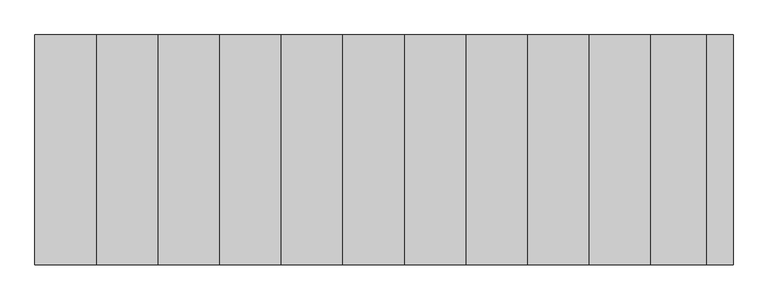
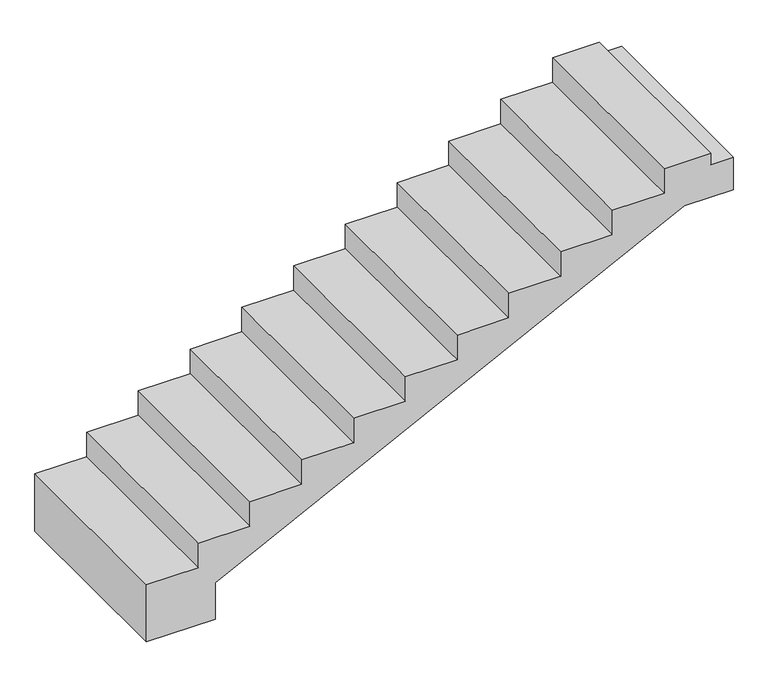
"""IFC4 building model written with IfcOpenShell, lengths in millimetres: beam geometry, SF_марш монолитный с отделкой_3.4 : UP_300х150."""

from ifc_helpers import new_model, si_unit, origin, place, context, project, spatial, faceted_brep, source, transform, mapped, element, save


def beam_4ecbd69a(model_context):
    return source(origin(), model_context, "Body", "Brep", [
        faceted_brep([(3417.7708764, 560.0, 1380.0), (3417.7708764, -560.0, 1380.0), (700.0, -560.0, 21.1145618), (700.0, 560.0, 21.1145618), (3570.0, -560.0, 1580.0), (3570.0, -560.0, 1650.0), (3300.0, -560.0, 1650.0), (3300.0, -560.0, 1500.0), (3000.0, -560.0, 1500.0), (3000.0, -560.0, 1350.0), (2700.0, -560.0, 1350.0), (2700.0, -560.0, 1200.0), (2400.0, -560.0, 1200.0), (2400.0, -560.0, 1050.0), (2100.0, -560.0, 1050.0), (2100.0, -560.0, 900.0), (1800.0, -560.0, 900.0), (1800.0, -560.0, 750.0), (1500.0, -560.0, 750.0), (1500.0, -560.0, 600.0), (1200.0, -560.0, 600.0), (1200.0, -560.0, 450.0), (900.0, -560.0, 450.0), (900.0, -560.0, 300.0), (600.0, -560.0, 300.0), (600.0, -560.0, 150.0), (300.0, -560.0, 150.0), (300.0, -560.0, 0.0), (300.0, -560.0, -200.0), (700.0, -560.0, -200.0), (3700.0, -560.0, 1380.0), (3700.0, -560.0, 1580.0), (3570.0, 560.0, 1650.0), (3570.0, 560.0, 1580.0), (3700.0, 560.0, 1580.0), (3700.0, 560.0, 1380.0), (700.0, 560.0, -200.0), (300.0, 560.0, -200.0), (300.0, 560.0, 0.0), (300.0, 560.0, 150.0), (600.0, 560.0, 150.0), (600.0, 560.0, 300.0), (900.0, 560.0, 300.0), (900.0, 560.0, 450.0), (1200.0, 560.0, 450.0), (1200.0, 560.0, 600.0), (1500.0, 560.0, 600.0), (1500.0, 560.0, 750.0), (1800.0, 560.0, 750.0), (1800.0, 560.0, 900.0), (2100.0, 560.0, 900.0), (2100.0, 560.0, 1050.0), (2400.0, 560.0, 1050.0), (2400.0, 560.0, 1200.0), (2700.0, 560.0, 1200.0), (2700.0, 560.0, 1350.0), (3000.0, 560.0, 1350.0), (3000.0, 560.0, 1500.0), (3300.0, 560.0, 1500.0), (3300.0, 560.0, 1650.0)], [[[0, 1, 2, 3]], [[4, 5, 6, 7, 8, 9, 10, 11, 12, 13, 14, 15, 16, 17, 18, 19, 20, 21, 22, 23, 24, 25, 26, 27, 28, 29, 2, 1, 30, 31]], [[32, 33, 34, 35, 0, 3, 36, 37, 38, 39, 40, 41, 42, 43, 44, 45, 46, 47, 48, 49, 50, 51, 52, 53, 54, 55, 56, 57, 58, 59]], [[1, 0, 35, 30]], [[25, 40, 39, 26]], [[40, 25, 24, 41]], [[41, 24, 23, 42]], [[42, 23, 22, 43]], [[43, 22, 21, 44]], [[44, 21, 20, 45]], [[45, 20, 19, 46]], [[46, 19, 18, 47]], [[47, 18, 17, 48]], [[48, 17, 16, 49]], [[49, 16, 15, 50]], [[50, 15, 14, 51]], [[51, 14, 13, 52]], [[52, 13, 12, 53]], [[53, 12, 11, 54]], [[54, 11, 10, 55]], [[55, 10, 9, 56]], [[56, 9, 8, 57]], [[57, 8, 7, 58]], [[58, 7, 6, 59]], [[36, 29, 28, 37]], [[5, 32, 59, 6]], [[35, 34, 31, 30]], [[29, 36, 3, 2]], [[33, 4, 31, 34]], [[5, 4, 33, 32]], [[37, 28, 27, 26, 39, 38]]]),
    ])


if __name__ == "__main__":
    model = new_model("IFC4")
    model_context = context("Model", 3, world=origin())
    ifc_project = project(units=[si_unit("LENGTHUNIT", "METRE", prefix="MILLI")], contexts=[model_context])
    site = spatial("IfcSite", under=ifc_project)
    building = spatial("IfcBuilding", under=site)
    placement = place(None, origin())
    beam_shape = beam_4ecbd69a(model_context)
    element("IfcBeam", 1, ObjectType="SF_марш монолитный с отделкой_3.4 : UP_300х150", at=placement, inside=building, context=model_context, shape_type="MappedRepresentation", body=[
        mapped(beam_shape, transform((0.0, 0.0, 0.0), x_axis=(1.0, 0.0, 0.0), y_axis=(0.0, 1.0, 0.0), z_axis=(0.0, 0.0, 1.0))),
    ])
    save(model, "model.ifc")
